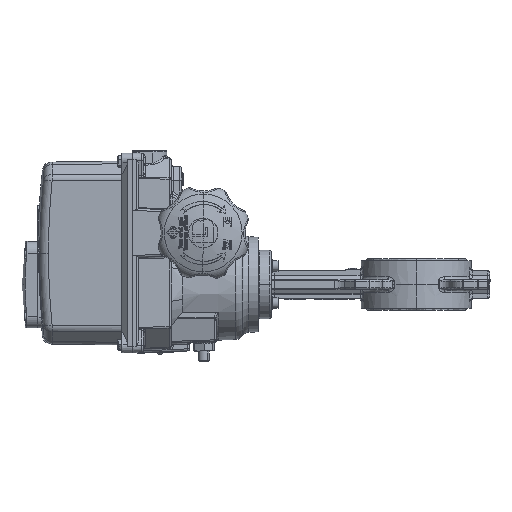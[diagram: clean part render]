
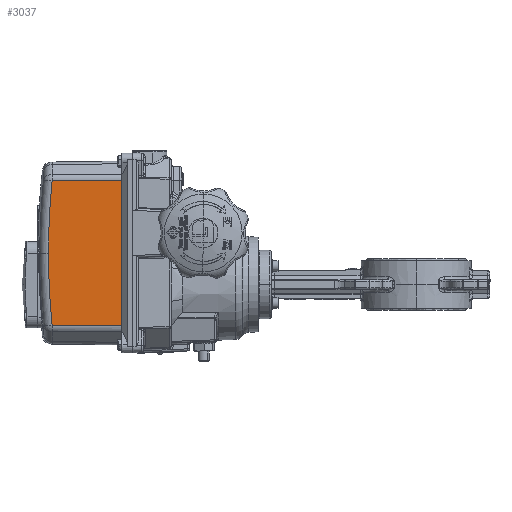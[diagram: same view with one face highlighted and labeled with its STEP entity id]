
A CAD part, left-side view. The second image highlights one B-rep face of the part: STEP entity #3037.
In plain terms, the highlighted planar face has unit normal (-1, 0.013, 0).
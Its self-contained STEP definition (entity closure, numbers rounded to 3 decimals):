
#3037 = ADVANCED_FACE ( 'NONE', ( #113357 ), #37072, .T. ) ;
#6144 = LINE ( 'NONE', #58369, #109556 ) ;
#7955 = DIRECTION ( 'NONE',  ( 0.013, 1., -0.006 ) ) ;
#8067 = VECTOR ( 'NONE', #126441, 1000. ) ;
#12312 = LINE ( 'NONE', #128026, #35829 ) ;
#14823 = ORIENTED_EDGE ( 'NONE', *, *, #89100, .T. ) ;
#17872 = AXIS2_PLACEMENT_3D ( 'NONE', #107575, #47622, #118083 ) ;
#18081 = DIRECTION ( 'NONE',  ( 0., 0., 1. ) ) ;
#25034 = VERTEX_POINT ( 'NONE', #113660 ) ;
#28982 = VERTEX_POINT ( 'NONE', #115872 ) ;
#30107 = DIRECTION ( 'NONE',  ( -1., 0.013, 0. ) ) ;
#30195 = EDGE_CURVE ( 'NONE', #25034, #56840, #113766, .T. ) ;
#32658 = ORIENTED_EDGE ( 'NONE', *, *, #76252, .T. ) ;
#35816 = CARTESIAN_POINT ( 'NONE',  ( -119.515, 49.481, 403.707 ) ) ;
#35829 = VECTOR ( 'NONE', #18081, 1000. ) ;
#37072 = PLANE ( 'NONE',  #17872 ) ;
#47622 = DIRECTION ( 'NONE',  ( -1., 0.013, 0. ) ) ;
#49001 = DIRECTION ( 'NONE',  ( 0.013, 1., 0. ) ) ;
#51023 = CARTESIAN_POINT ( 'NONE',  ( -127.825, -569.604, 334.763 ) ) ;
#51284 = ORIENTED_EDGE ( 'NONE', *, *, #110940, .T. ) ;
#53433 = CARTESIAN_POINT ( 'NONE',  ( -118.625, 115.832, 403.339 ) ) ;
#55083 = LINE ( 'NONE', #95693, #8067 ) ;
#56840 = VERTEX_POINT ( 'NONE', #126737 ) ;
#58369 = CARTESIAN_POINT ( 'NONE',  ( -119.648, 39.607, 403.762 ) ) ;
#61075 = DIRECTION ( 'NONE',  ( -1., 0.013, 0. ) ) ;
#61519 = DIRECTION ( 'NONE',  ( 0.013, 1., 0. ) ) ;
#70003 = VERTEX_POINT ( 'NONE', #53433 ) ;
#70006 = CARTESIAN_POINT ( 'NONE',  ( -127.825, -569.604, 334.763 ) ) ;
#75505 = AXIS2_PLACEMENT_3D ( 'NONE', #51023, #61075, #61519 ) ;
#76252 = EDGE_CURVE ( 'NONE', #105843, #70003, #6144, .T. ) ;
#79071 = CIRCLE ( 'NONE', #75505, 688.92 ) ;
#85082 = EDGE_LOOP ( 'NONE', ( #101322, #51284, #32658, #14823, #127528 ) ) ;
#89100 = EDGE_CURVE ( 'NONE', #70003, #25034, #79071, .T. ) ;
#91932 = EDGE_CURVE ( 'NONE', #56840, #28982, #55083, .T. ) ;
#95693 = CARTESIAN_POINT ( 'NONE',  ( -119.649, 39.501, 265.762 ) ) ;
#101322 = ORIENTED_EDGE ( 'NONE', *, *, #91932, .T. ) ;
#105843 = VERTEX_POINT ( 'NONE', #35816 ) ;
#107575 = CARTESIAN_POINT ( 'NONE',  ( -119.649, 39.514, 263.277 ) ) ;
#109556 = VECTOR ( 'NONE', #7955, 1000. ) ;
#110940 = EDGE_CURVE ( 'NONE', #28982, #105843, #12312, .T. ) ;
#113357 = FACE_OUTER_BOUND ( 'NONE', #85082, .T. ) ;
#113660 = CARTESIAN_POINT ( 'NONE',  ( -118.579, 119.254, 334.763 ) ) ;
#113766 = CIRCLE ( 'NONE', #124094, 688.92 ) ;
#115872 = CARTESIAN_POINT ( 'NONE',  ( -119.515, 49.481, 265.818 ) ) ;
#118083 = DIRECTION ( 'NONE',  ( 0.013, 1., 0. ) ) ;
#124094 = AXIS2_PLACEMENT_3D ( 'NONE', #70006, #30107, #49001 ) ;
#126441 = DIRECTION ( 'NONE',  ( -0.013, -1., -0.006 ) ) ;
#126737 = CARTESIAN_POINT ( 'NONE',  ( -118.625, 115.832, 266.187 ) ) ;
#127528 = ORIENTED_EDGE ( 'NONE', *, *, #30195, .T. ) ;
#128026 = CARTESIAN_POINT ( 'NONE',  ( -119.515, 49.481, 263.277 ) ) ;
